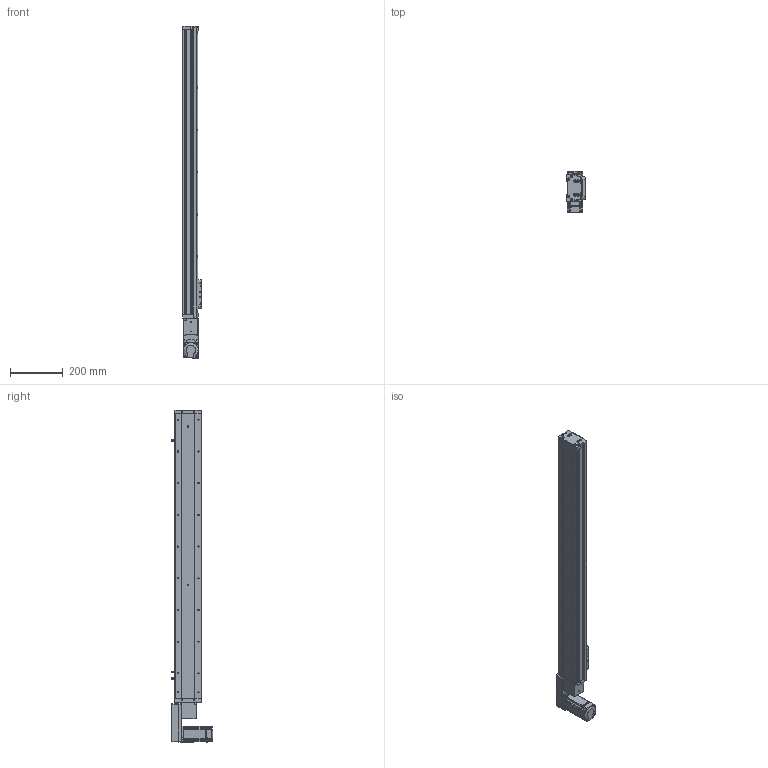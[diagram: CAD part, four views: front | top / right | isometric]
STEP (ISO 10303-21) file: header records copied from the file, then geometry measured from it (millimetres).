
FILE_DESCRIPTION (( 'STEP AP214' ), '1' );
FILE_NAME ('KSD100B-S900-MLB-CR.STEP', '2019-09-06T07:58:38', ( '微软用户' ), ( '微软中国' ), 'SwSTEP 2.0', 'SolidWorks 2014', '' );
FILE_SCHEMA (( 'AUTOMOTIVE_DESIGN' ));
Length unit declared in the file: millimetre
Products named in the file (15): 100宽端板同步带全封闭; 悵誘欶奻狟殏; 100宽滚珠螺姆安装板1防护罩; 100宽滚珠螺姆安装板1; MHMD042G1CA_2_03; 100遵裔啣揤啣; 100遵裔啣900俴最; 100宽侧板900行程同步带; 100宽底板全封闭900行程同步带; KSD100B-S900-MLB-CR; 100宽马达安装板连板上下折丝杆同步带; 感应片100宽全封闭; U倰嫖萇EEㄜSX672; 100宽马达安装板同步带左; 100遵鎮湛假蚾啣蜊
Assembly tree (18 placements, depth 2):
  KSD100B-S900-MLB-CR
    100宽底板全封闭900行程同步带
    100宽侧板900行程同步带  x2
    100遵裔啣900俴最
    100遵裔啣揤啣  x2
    100宽滚珠螺姆安装板1
    100宽滚珠螺姆安装板1防护罩
    100宽端板同步带全封闭
    100遵鎮湛假蚾啣蜊
    100宽马达安装板同步带左
    U倰嫖萇EEㄜSX672  x3
    感应片100宽全封闭
    100宽马达安装板连板上下折丝杆同步带
    悵誘欶奻狟殏
    MHMD042G1CA_2_03
Bounding box: 70 x 156.2 x 1257 mm (x, y, z)
Volume: 2325083.3 mm3; surface area: 1035112.4 mm2
Topology: 17 solids, 18 shells, 1813 faces, 5064 edges, 3237 vertices
Faces by surface type: cylinder 817, plane 737, cone 239, bspline 20
Entity records: 64280 total; most frequent: CARTESIAN_POINT 9868, DIRECTION 8784, ORIENTED_EDGE 8104, EDGE_CURVE 4124, AXIS2_PLACEMENT_3D 3183, VERTEX_POINT 2735, VECTOR 2418, LINE 2418
